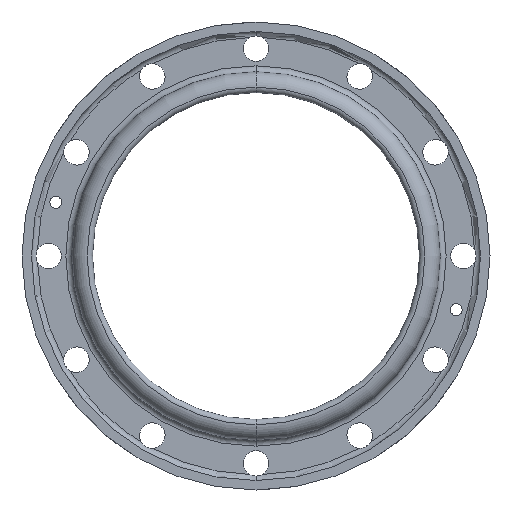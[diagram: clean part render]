
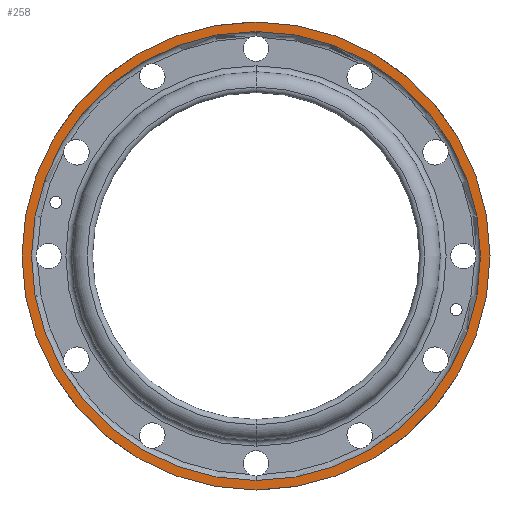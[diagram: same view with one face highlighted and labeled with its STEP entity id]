
A CAD part, front view. The second image highlights one B-rep face of the part: STEP entity #258.
In plain terms, the highlighted planar face has unit normal (0, -1, 0).
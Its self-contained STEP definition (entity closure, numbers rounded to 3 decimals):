
#258=ADVANCED_FACE('',(#509,#510),#511,.T.);
#509=FACE_OUTER_BOUND('',#748,.T.);
#510=FACE_BOUND('',#749,.T.);
#511=PLANE('',#750);
#748=EDGE_LOOP('',(#1557,#1558));
#749=EDGE_LOOP('',(#1559,#1560));
#750=AXIS2_PLACEMENT_3D('',#1561,#1562,#1563);
#1557=ORIENTED_EDGE('',*,*,#1624,.F.);
#1558=ORIENTED_EDGE('',*,*,#1943,.F.);
#1559=ORIENTED_EDGE('',*,*,#1941,.T.);
#1560=ORIENTED_EDGE('',*,*,#1630,.T.);
#1561=CARTESIAN_POINT('',(-554.148,32.264,0.0));
#1562=DIRECTION('',(0.0,-1.0,-0.0));
#1563=DIRECTION('',(1.0,0.0,0.0));
#1624=EDGE_CURVE('',#1983,#1986,#1987,.T.);
#1630=EDGE_CURVE('',#1997,#1994,#1998,.T.);
#1941=EDGE_CURVE('',#1994,#1997,#2470,.T.);
#1943=EDGE_CURVE('',#1986,#1983,#2472,.T.);
#1983=VERTEX_POINT('',#2514);
#1986=VERTEX_POINT('',#2518);
#1987=CIRCLE('',#2519,197.5);
#1994=VERTEX_POINT('',#2527);
#1997=VERTEX_POINT('',#2531);
#1998=CIRCLE('',#2532,189.5);
#2470=CIRCLE('',#5533,189.5);
#2472=CIRCLE('',#5535,197.5);
#2514=CARTESIAN_POINT('',(-558.148,32.264,0.0));
#2518=CARTESIAN_POINT('',(-163.148,32.264,0.));
#2519=AXIS2_PLACEMENT_3D('',#5585,#5586,#5587);
#2527=CARTESIAN_POINT('',(-550.148,32.264,0.0));
#2531=CARTESIAN_POINT('',(-171.148,32.264,0.));
#2532=AXIS2_PLACEMENT_3D('',#5596,#5597,#5598);
#5533=AXIS2_PLACEMENT_3D('',#6069,#6070,#6071);
#5535=AXIS2_PLACEMENT_3D('',#6072,#6073,#6074);
#5585=CARTESIAN_POINT('',(-360.648,32.264,0.0));
#5586=DIRECTION('',(0.0,1.0,0.0));
#5587=DIRECTION('',(-1.0,0.0,0.0));
#5596=CARTESIAN_POINT('',(-360.648,32.264,0.0));
#5597=DIRECTION('',(0.0,1.0,0.0));
#5598=DIRECTION('',(-1.0,0.0,0.0));
#6069=CARTESIAN_POINT('',(-360.648,32.264,0.0));
#6070=DIRECTION('',(0.0,1.0,0.0));
#6071=DIRECTION('',(-1.0,0.0,0.0));
#6072=CARTESIAN_POINT('',(-360.648,32.264,0.0));
#6073=DIRECTION('',(0.0,1.0,0.0));
#6074=DIRECTION('',(-1.0,0.0,0.0));
